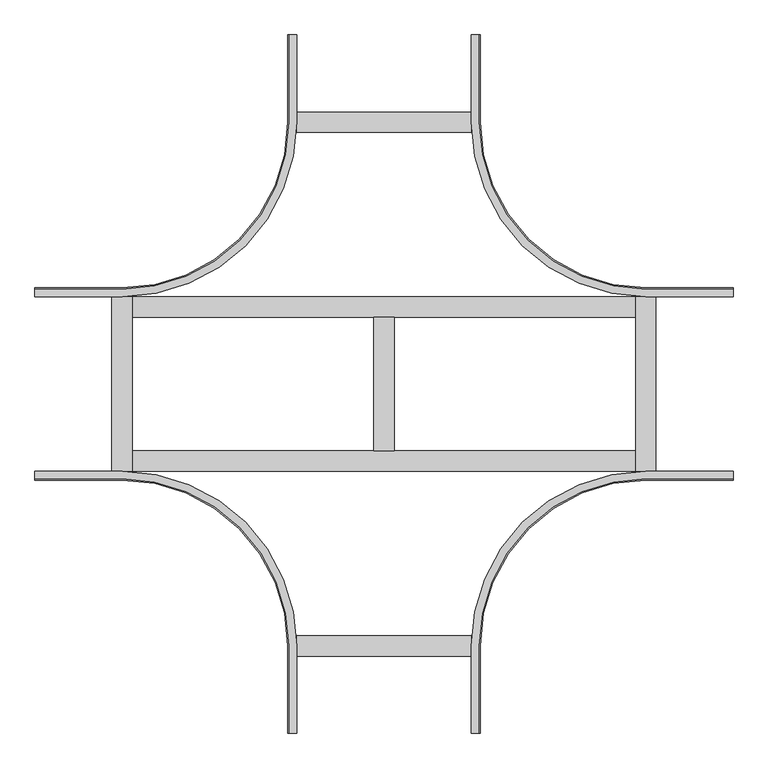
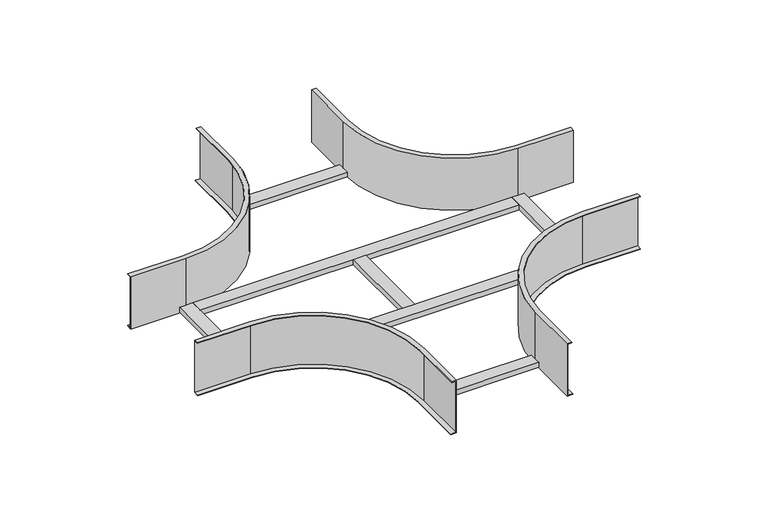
"""IFC4 building model written with IfcOpenShell, lengths in millimetres: cable carrier fitting geometry, CRBSL-CRBSLR_Horizontal Cross-Over-Basortrav : Basortrav CRBSL-300 GC."""

from ifc_helpers import new_model, si_unit, frame, origin, place, context, project, spatial, polyline, circle_curve, outline, extrude, source, transform, mapped, element, save
from ifc_brep_helpers import plane_surface, cylinder_surface, revolved_surface, advanced_brep


def cable_carrier_fitting_2f5dceb8(model_context):
    return source(origin(), model_context, "Body", "SolidModel", [
        advanced_brep(
        [(600.0, 163.0, 75.0), (600.0, 150.0, 75.0), (600.0, 150.0, -75.0), (600.0, 165.1346187, -75.0), (600.0, 165.1346187, -73.5), (600.0, 151.5, -73.5), (600.0, 151.5, 73.5), (600.0, 163.0, 73.5), (450.0, 163.0, 75.0), (163.0, 450.0, 75.0), (163.0, 600.0, 75.0), (150.0, 600.0, 75.0), (150.0, 450.0, 75.0), (450.0, 150.0, 75.0), (450.0, 150.0, -75.0), (150.0, 450.0, -75.0), (150.0, 600.0, -75.0), (165.1346187, 600.0, -75.0), (165.1346187, 450.0, -75.0), (450.0, 165.1346187, -75.0), (450.0, 151.5, 73.5), (151.5, 450.0, 73.5), (151.5, 600.0, 73.5), (163.0, 600.0, 73.5), (163.0, 450.0, 73.5), (450.0, 163.0, 73.5), (151.5, 600.0, -73.5), (165.1346187, 600.0, -73.5), (450.0, 165.1346187, -73.5), (165.1346187, 450.0, -73.5), (151.5, 450.0, -73.5), (450.0, 151.5, -73.5)],
        [
            (0, 1),
            (1, 2),
            (2, 3),
            (3, 4),
            (4, 5),
            (5, 6),
            (6, 7),
            (7, 0),
            (0, 8),
            (8, 9, circle_curve(frame((450.0, 450.0, 75.0), z_axis=(0.0, 0.0, -1.0), x_axis=(0.0, -1.0, 0.0)), 287.0)),
            (9, 10),
            (10, 11),
            (11, 12),
            (12, 13, circle_curve(frame((450.0, 450.0, 75.0), z_axis=(0.0, 0.0, 1.0), x_axis=(0.0, -1.0, 0.0)), 300.0)),
            (13, 1),
            (13, 14),
            (14, 2),
            (14, 15, circle_curve(frame((450.0, 450.0, -75.0), z_axis=(0.0, 0.0, -1.0), x_axis=(0.0, -1.0, 0.0)), 300.0)),
            (15, 16),
            (16, 17),
            (17, 18),
            (18, 19, circle_curve(frame((450.0, 450.0, -75.0), z_axis=(0.0, 0.0, 1.0), x_axis=(0.0, -1.0, 0.0)), 284.8653813)),
            (19, 3),
            (6, 20),
            (20, 21, circle_curve(frame((450.0, 450.0, 73.5), z_axis=(0.0, 0.0, -1.0), x_axis=(0.0, -1.0, 0.0)), 298.5)),
            (21, 22),
            (22, 23),
            (23, 24),
            (24, 25, circle_curve(frame((450.0, 450.0, 73.5), z_axis=(0.0, 0.0, 1.0), x_axis=(0.0, -1.0, 0.0)), 287.0)),
            (25, 7),
            (25, 8),
            (12, 15),
            (24, 9),
            (10, 23),
            (22, 26),
            (26, 27),
            (27, 17),
            (16, 11),
            (19, 28),
            (28, 4),
            (28, 29, circle_curve(frame((450.0, 450.0, -73.5), z_axis=(0.0, 0.0, -1.0), x_axis=(0.0, -1.0, 0.0)), 284.8653813)),
            (29, 27),
            (26, 30),
            (30, 31, circle_curve(frame((450.0, 450.0, -73.5), z_axis=(0.0, 0.0, 1.0), x_axis=(0.0, -1.0, 0.0)), 298.5)),
            (31, 5),
            (31, 20),
            (18, 29),
            (30, 21),
        ],
        [
            plane_surface(frame((600.0, 150.0, 75.0), z_axis=(1.0, 0.0, 0.0), x_axis=(0.0, 0.0, 1.0))),
            plane_surface(frame((600.0, 163.0, 75.0), z_axis=(0.0, 0.0, 1.0), x_axis=(-1.0, 0.0, 0.0))),
            plane_surface(frame((600.0, 150.0, 75.0), z_axis=(0.0, -1.0, 0.0), x_axis=(-1.0, 0.0, 0.0))),
            plane_surface(frame((600.0, 150.0, -75.0), z_axis=(0.0, 0.0, -1.0), x_axis=(-1.0, 0.0, 0.0))),
            plane_surface(frame((600.0, 151.5, 73.5), z_axis=(0.0, 0.0, -1.0), x_axis=(-1.0, 0.0, 0.0))),
            plane_surface(frame((600.0, 163.0, 73.5), z_axis=(0.0, 1.0, 0.0), x_axis=(-1.0, 0.0, 0.0))),
            cylinder_surface(frame((450.0, 450.0, 75.0), z_axis=(0.0, 0.0, -1.0), x_axis=(0.0, -1.0, 0.0)), 300.0),
            revolved_surface(polyline([(450.0, 163.0, 73.5), (450.0, 163.0, 75.0)]), (450.0, 450.0, 75.0), (0.0, 0.0, -1.0)),
            plane_surface(frame((150.0, 600.0, 75.0), z_axis=(0.0, 1.0, 0.0), x_axis=(0.0, 0.0, 1.0))),
            plane_surface(frame((150.0, 450.0, 75.0), z_axis=(-1.0, 0.0, 0.0), x_axis=(0.0, 1.0, 0.0))),
            plane_surface(frame((163.0, 450.0, 73.5), z_axis=(1.0, 0.0, 0.0), x_axis=(0.0, 1.0, 0.0))),
            plane_surface(frame((600.0, 165.1346187, -75.0), z_axis=(0.0, 1.0, 0.0), x_axis=(-1.0, 0.0, 0.0))),
            plane_surface(frame((600.0, 165.1346187, -73.5), z_axis=(0.0, 0.0, 1.0), x_axis=(-1.0, 0.0, 0.0))),
            plane_surface(frame((600.0, 151.5, -73.5), z_axis=(0.0, 1.0, 0.0), x_axis=(-1.0, 0.0, 0.0))),
            revolved_surface(polyline([(450.0, 165.13461869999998, -75.0), (450.0, 165.13461869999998, -73.5)]), (450.0, 450.0, 75.0), (0.0, 0.0, -1.0)),
            revolved_surface(polyline([(450.0, 151.5, -73.5), (450.0, 151.5, 73.5)]), (450.0, 450.0, 75.0), (0.0, 0.0, -1.0)),
            plane_surface(frame((165.1346187, 450.0, -75.0), z_axis=(1.0, 0.0, 0.0), x_axis=(0.0, 1.0, 0.0))),
            plane_surface(frame((151.5, 450.0, -73.5), z_axis=(1.0, 0.0, 0.0), x_axis=(0.0, 1.0, 0.0))),
        ],
        [
            (0, [[1, 2, 3, 4, 5, 6, 7, 8]]),
            (1, [[-1, 9, 10, 11, 12, 13, 14, 15]]),
            (2, [[-2, -15, 16, 17]]),
            (3, [[-3, -17, 18, 19, 20, 21, 22, 23]]),
            (4, [[-7, 24, 25, 26, 27, 28, 29, 30]]),
            (5, [[-8, -30, 31, -9]]),
            (6, [[-18, -16, -14, 32]]),
            (7, [[-10, -31, -29, 33]]),
            (8, [[34, -27, 35, 36, 37, -20, 38, -12]]),
            (9, [[-32, -13, -38, -19]]),
            (10, [[-33, -28, -34, -11]]),
            (11, [[-4, -23, 39, 40]]),
            (12, [[-5, -40, 41, 42, -36, 43, 44, 45]]),
            (13, [[-6, -45, 46, -24]]),
            (14, [[-41, -39, -22, 47]]),
            (15, [[-25, -46, -44, 48]]),
            (16, [[-47, -21, -37, -42]]),
            (17, [[-48, -43, -35, -26]]),
        ],
    ),
        advanced_brep(
        [(-163.0, 600.0, 75.0), (-150.0, 600.0, 75.0), (-150.0, 600.0, -75.0), (-165.1346187, 600.0, -75.0), (-165.1346187, 600.0, -73.5), (-151.5, 600.0, -73.5), (-151.5, 600.0, 73.5), (-163.0, 600.0, 73.5), (-163.0, 450.0, 75.0), (-450.0, 163.0, 75.0), (-600.0, 163.0, 75.0), (-600.0, 150.0, 75.0), (-450.0, 150.0, 75.0), (-150.0, 450.0, 75.0), (-150.0, 450.0, -75.0), (-450.0, 150.0, -75.0), (-600.0, 150.0, -75.0), (-600.0, 165.1346187, -75.0), (-450.0, 165.1346187, -75.0), (-165.1346187, 450.0, -75.0), (-151.5, 450.0, 73.5), (-450.0, 151.5, 73.5), (-600.0, 151.5, 73.5), (-600.0, 163.0, 73.5), (-450.0, 163.0, 73.5), (-163.0, 450.0, 73.5), (-600.0, 151.5, -73.5), (-600.0, 165.1346187, -73.5), (-165.1346187, 450.0, -73.5), (-450.0, 165.1346187, -73.5), (-450.0, 151.5, -73.5), (-151.5, 450.0, -73.5)],
        [
            (0, 1),
            (1, 2),
            (2, 3),
            (3, 4),
            (4, 5),
            (5, 6),
            (6, 7),
            (7, 0),
            (0, 8),
            (8, 9, circle_curve(frame((-450.0, 450.0, 75.0), z_axis=(0.0, 0.0, -1.0), x_axis=(1.0, 0.0, 0.0)), 287.0)),
            (9, 10),
            (10, 11),
            (11, 12),
            (12, 13, circle_curve(frame((-450.0, 450.0, 75.0), z_axis=(0.0, 0.0, 1.0), x_axis=(1.0, 0.0, 0.0)), 300.0)),
            (13, 1),
            (13, 14),
            (14, 2),
            (14, 15, circle_curve(frame((-450.0, 450.0, -75.0), z_axis=(0.0, 0.0, -1.0), x_axis=(1.0, 0.0, 0.0)), 300.0)),
            (15, 16),
            (16, 17),
            (17, 18),
            (18, 19, circle_curve(frame((-450.0, 450.0, -75.0), z_axis=(0.0, 0.0, 1.0), x_axis=(1.0, 0.0, 0.0)), 284.8653813)),
            (19, 3),
            (6, 20),
            (20, 21, circle_curve(frame((-450.0, 450.0, 73.5), z_axis=(0.0, 0.0, -1.0), x_axis=(1.0, 0.0, 0.0)), 298.5)),
            (21, 22),
            (22, 23),
            (23, 24),
            (24, 25, circle_curve(frame((-450.0, 450.0, 73.5), z_axis=(0.0, 0.0, 1.0), x_axis=(1.0, 0.0, 0.0)), 287.0)),
            (25, 7),
            (25, 8),
            (12, 15),
            (24, 9),
            (10, 23),
            (22, 26),
            (26, 27),
            (27, 17),
            (16, 11),
            (19, 28),
            (28, 4),
            (28, 29, circle_curve(frame((-450.0, 450.0, -73.5), z_axis=(0.0, 0.0, -1.0), x_axis=(1.0, 0.0, 0.0)), 284.8653813)),
            (29, 27),
            (26, 30),
            (30, 31, circle_curve(frame((-450.0, 450.0, -73.5), z_axis=(0.0, 0.0, 1.0), x_axis=(1.0, 0.0, 0.0)), 298.5)),
            (31, 5),
            (31, 20),
            (18, 29),
            (30, 21),
        ],
        [
            plane_surface(frame((-150.0, 600.0, 75.0), z_axis=(0.0, 1.0, 0.0), x_axis=(0.0, 0.0, 1.0))),
            plane_surface(frame((-163.0, 600.0, 75.0), z_axis=(0.0, 0.0, 1.0), x_axis=(0.0, -1.0, 0.0))),
            plane_surface(frame((-150.0, 600.0, 75.0), z_axis=(1.0, 0.0, 0.0), x_axis=(0.0, -1.0, 0.0))),
            plane_surface(frame((-150.0, 600.0, -75.0), z_axis=(0.0, 0.0, -1.0), x_axis=(0.0, -1.0, 0.0))),
            plane_surface(frame((-151.5, 600.0, 73.5), z_axis=(0.0, 0.0, -1.0), x_axis=(0.0, -1.0, 0.0))),
            plane_surface(frame((-163.0, 600.0, 73.5), z_axis=(-1.0, 0.0, 0.0), x_axis=(0.0, -1.0, 0.0))),
            cylinder_surface(frame((-450.0, 450.0, 75.0), z_axis=(0.0, 0.0, -1.0), x_axis=(1.0, 0.0, 0.0)), 300.0),
            revolved_surface(polyline([(-163.0, 450.0, 73.5), (-163.0, 450.0, 75.0)]), (-450.0, 450.0, 75.0), (0.0, 0.0, -1.0)),
            plane_surface(frame((-600.0, 150.0, 75.0), z_axis=(-1.0, 0.0, 0.0), x_axis=(0.0, 0.0, 1.0))),
            plane_surface(frame((-450.0, 150.0, 75.0), z_axis=(0.0, -1.0, 0.0), x_axis=(-1.0, 0.0, 0.0))),
            plane_surface(frame((-450.0, 163.0, 73.5), z_axis=(0.0, 1.0, 0.0), x_axis=(-1.0, 0.0, 0.0))),
            plane_surface(frame((-165.1346187, 600.0, -75.0), z_axis=(-1.0, 0.0, 0.0), x_axis=(0.0, -1.0, 0.0))),
            plane_surface(frame((-165.1346187, 600.0, -73.5), z_axis=(0.0, 0.0, 1.0), x_axis=(0.0, -1.0, 0.0))),
            plane_surface(frame((-151.5, 600.0, -73.5), z_axis=(-1.0, 0.0, 0.0), x_axis=(0.0, -1.0, 0.0))),
            revolved_surface(polyline([(-165.13461869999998, 450.0, -75.0), (-165.13461869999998, 450.0, -73.5)]), (-450.0, 450.0, 75.0), (0.0, 0.0, -1.0)),
            revolved_surface(polyline([(-151.5, 450.0, -73.5), (-151.5, 450.0, 73.5)]), (-450.0, 450.0, 75.0), (0.0, 0.0, -1.0)),
            plane_surface(frame((-450.0, 165.1346187, -75.0), z_axis=(0.0, 1.0, 0.0), x_axis=(-1.0, 0.0, 0.0))),
            plane_surface(frame((-450.0, 151.5, -73.5), z_axis=(0.0, 1.0, 0.0), x_axis=(-1.0, 0.0, 0.0))),
        ],
        [
            (0, [[1, 2, 3, 4, 5, 6, 7, 8]]),
            (1, [[-1, 9, 10, 11, 12, 13, 14, 15]]),
            (2, [[-2, -15, 16, 17]]),
            (3, [[-3, -17, 18, 19, 20, 21, 22, 23]]),
            (4, [[-7, 24, 25, 26, 27, 28, 29, 30]]),
            (5, [[-8, -30, 31, -9]]),
            (6, [[-18, -16, -14, 32]]),
            (7, [[-10, -31, -29, 33]]),
            (8, [[34, -27, 35, 36, 37, -20, 38, -12]]),
            (9, [[-32, -13, -38, -19]]),
            (10, [[-33, -28, -34, -11]]),
            (11, [[-4, -23, 39, 40]]),
            (12, [[-5, -40, 41, 42, -36, 43, 44, 45]]),
            (13, [[-6, -45, 46, -24]]),
            (14, [[-41, -39, -22, 47]]),
            (15, [[-25, -46, -44, 48]]),
            (16, [[-47, -21, -37, -42]]),
            (17, [[-48, -43, -35, -26]]),
        ],
    ),
        advanced_brep(
        [(163.0, -600.0, 75.0), (150.0, -600.0, 75.0), (150.0, -600.0, -75.0), (165.1346187, -600.0, -75.0), (165.1346187, -600.0, -73.5), (151.5, -600.0, -73.5), (151.5, -600.0, 73.5), (163.0, -600.0, 73.5), (163.0, -450.0, 75.0), (450.0, -163.0, 75.0), (600.0, -163.0, 75.0), (600.0, -150.0, 75.0), (450.0, -150.0, 75.0), (150.0, -450.0, 75.0), (150.0, -450.0, -75.0), (450.0, -150.0, -75.0), (600.0, -150.0, -75.0), (600.0, -165.1346187, -75.0), (450.0, -165.1346187, -75.0), (165.1346187, -450.0, -75.0), (151.5, -450.0, 73.5), (450.0, -151.5, 73.5), (600.0, -151.5, 73.5), (600.0, -163.0, 73.5), (450.0, -163.0, 73.5), (163.0, -450.0, 73.5), (600.0, -151.5, -73.5), (600.0, -165.1346187, -73.5), (165.1346187, -450.0, -73.5), (450.0, -165.1346187, -73.5), (450.0, -151.5, -73.5), (151.5, -450.0, -73.5)],
        [
            (0, 1),
            (1, 2),
            (2, 3),
            (3, 4),
            (4, 5),
            (5, 6),
            (6, 7),
            (7, 0),
            (0, 8),
            (8, 9, circle_curve(frame((450.0, -450.0, 75.0), z_axis=(0.0, 0.0, -1.0), x_axis=(-1.0, 0.0, 0.0)), 287.0)),
            (9, 10),
            (10, 11),
            (11, 12),
            (12, 13, circle_curve(frame((450.0, -450.0, 75.0), z_axis=(0.0, 0.0, 1.0), x_axis=(-1.0, 0.0, 0.0)), 300.0)),
            (13, 1),
            (13, 14),
            (14, 2),
            (14, 15, circle_curve(frame((450.0, -450.0, -75.0), z_axis=(0.0, 0.0, -1.0), x_axis=(-1.0, 0.0, 0.0)), 300.0)),
            (15, 16),
            (16, 17),
            (17, 18),
            (18, 19, circle_curve(frame((450.0, -450.0, -75.0), z_axis=(0.0, 0.0, 1.0), x_axis=(-1.0, 0.0, 0.0)), 284.8653813)),
            (19, 3),
            (6, 20),
            (20, 21, circle_curve(frame((450.0, -450.0, 73.5), z_axis=(0.0, 0.0, -1.0), x_axis=(-1.0, 0.0, 0.0)), 298.5)),
            (21, 22),
            (22, 23),
            (23, 24),
            (24, 25, circle_curve(frame((450.0, -450.0, 73.5), z_axis=(0.0, 0.0, 1.0), x_axis=(-1.0, 0.0, 0.0)), 287.0)),
            (25, 7),
            (25, 8),
            (12, 15),
            (24, 9),
            (10, 23),
            (22, 26),
            (26, 27),
            (27, 17),
            (16, 11),
            (19, 28),
            (28, 4),
            (28, 29, circle_curve(frame((450.0, -450.0, -73.5), z_axis=(0.0, 0.0, -1.0), x_axis=(-1.0, 0.0, 0.0)), 284.8653813)),
            (29, 27),
            (26, 30),
            (30, 31, circle_curve(frame((450.0, -450.0, -73.5), z_axis=(0.0, 0.0, 1.0), x_axis=(-1.0, 0.0, 0.0)), 298.5)),
            (31, 5),
            (31, 20),
            (18, 29),
            (30, 21),
        ],
        [
            plane_surface(frame((150.0, -600.0, 75.0), z_axis=(0.0, -1.0, 0.0), x_axis=(0.0, 0.0, 1.0))),
            plane_surface(frame((163.0, -600.0, 75.0), z_axis=(0.0, 0.0, 1.0), x_axis=(0.0, 1.0, 0.0))),
            plane_surface(frame((150.0, -600.0, 75.0), z_axis=(-1.0, 0.0, 0.0), x_axis=(0.0, 1.0, 0.0))),
            plane_surface(frame((150.0, -600.0, -75.0), z_axis=(0.0, 0.0, -1.0), x_axis=(0.0, 1.0, 0.0))),
            plane_surface(frame((151.5, -600.0, 73.5), z_axis=(0.0, 0.0, -1.0), x_axis=(0.0, 1.0, 0.0))),
            plane_surface(frame((163.0, -600.0, 73.5), z_axis=(1.0, 0.0, 0.0), x_axis=(0.0, 1.0, 0.0))),
            cylinder_surface(frame((450.0, -450.0, 75.0), z_axis=(0.0, 0.0, -1.0), x_axis=(-1.0, 0.0, 0.0)), 300.0),
            revolved_surface(polyline([(163.0, -450.0, 73.5), (163.0, -450.0, 75.0)]), (450.0, -450.0, 75.0), (0.0, 0.0, -1.0)),
            plane_surface(frame((600.0, -150.0, 75.0), z_axis=(1.0, 0.0, 0.0), x_axis=(0.0, 0.0, 1.0))),
            plane_surface(frame((450.0, -150.0, 75.0), z_axis=(0.0, 1.0, 0.0), x_axis=(1.0, 0.0, 0.0))),
            plane_surface(frame((450.0, -163.0, 73.5), z_axis=(0.0, -1.0, 0.0), x_axis=(1.0, 0.0, 0.0))),
            plane_surface(frame((165.1346187, -600.0, -75.0), z_axis=(1.0, 0.0, 0.0), x_axis=(0.0, 1.0, 0.0))),
            plane_surface(frame((165.1346187, -600.0, -73.5), z_axis=(0.0, 0.0, 1.0), x_axis=(0.0, 1.0, 0.0))),
            plane_surface(frame((151.5, -600.0, -73.5), z_axis=(1.0, 0.0, 0.0), x_axis=(0.0, 1.0, 0.0))),
            revolved_surface(polyline([(165.13461869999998, -450.0, -75.0), (165.13461869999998, -450.0, -73.5)]), (450.0, -450.0, 75.0), (0.0, 0.0, -1.0)),
            revolved_surface(polyline([(151.5, -450.0, -73.5), (151.5, -450.0, 73.5)]), (450.0, -450.0, 75.0), (0.0, 0.0, -1.0)),
            plane_surface(frame((450.0, -165.1346187, -75.0), z_axis=(0.0, -1.0, 0.0), x_axis=(1.0, 0.0, 0.0))),
            plane_surface(frame((450.0, -151.5, -73.5), z_axis=(0.0, -1.0, 0.0), x_axis=(1.0, 0.0, 0.0))),
        ],
        [
            (0, [[1, 2, 3, 4, 5, 6, 7, 8]]),
            (1, [[-1, 9, 10, 11, 12, 13, 14, 15]]),
            (2, [[-2, -15, 16, 17]]),
            (3, [[-3, -17, 18, 19, 20, 21, 22, 23]]),
            (4, [[-7, 24, 25, 26, 27, 28, 29, 30]]),
            (5, [[-8, -30, 31, -9]]),
            (6, [[-18, -16, -14, 32]]),
            (7, [[-10, -31, -29, 33]]),
            (8, [[34, -27, 35, 36, 37, -20, 38, -12]]),
            (9, [[-32, -13, -38, -19]]),
            (10, [[-33, -28, -34, -11]]),
            (11, [[-4, -23, 39, 40]]),
            (12, [[-5, -40, 41, 42, -36, 43, 44, 45]]),
            (13, [[-6, -45, 46, -24]]),
            (14, [[-41, -39, -22, 47]]),
            (15, [[-25, -46, -44, 48]]),
            (16, [[-47, -21, -37, -42]]),
            (17, [[-48, -43, -35, -26]]),
        ],
    ),
        advanced_brep(
        [(-600.0, -163.0, 75.0), (-600.0, -150.0, 75.0), (-600.0, -150.0, -75.0), (-600.0, -165.1346187, -75.0), (-600.0, -165.1346187, -73.5), (-600.0, -151.5, -73.5), (-600.0, -151.5, 73.5), (-600.0, -163.0, 73.5), (-450.0, -163.0, 75.0), (-163.0, -450.0, 75.0), (-163.0, -600.0, 75.0), (-150.0, -600.0, 75.0), (-150.0, -450.0, 75.0), (-450.0, -150.0, 75.0), (-450.0, -150.0, -75.0), (-150.0, -450.0, -75.0), (-150.0, -600.0, -75.0), (-165.1346187, -600.0, -75.0), (-165.1346187, -450.0, -75.0), (-450.0, -165.1346187, -75.0), (-450.0, -151.5, 73.5), (-151.5, -450.0, 73.5), (-151.5, -600.0, 73.5), (-163.0, -600.0, 73.5), (-163.0, -450.0, 73.5), (-450.0, -163.0, 73.5), (-151.5, -600.0, -73.5), (-165.1346187, -600.0, -73.5), (-450.0, -165.1346187, -73.5), (-165.1346187, -450.0, -73.5), (-151.5, -450.0, -73.5), (-450.0, -151.5, -73.5)],
        [
            (0, 1),
            (1, 2),
            (2, 3),
            (3, 4),
            (4, 5),
            (5, 6),
            (6, 7),
            (7, 0),
            (0, 8),
            (8, 9, circle_curve(frame((-450.0, -450.0, 75.0), z_axis=(0.0, 0.0, -1.0), x_axis=(0.0, 1.0, 0.0)), 287.0)),
            (9, 10),
            (10, 11),
            (11, 12),
            (12, 13, circle_curve(frame((-450.0, -450.0, 75.0), z_axis=(0.0, 0.0, 1.0), x_axis=(0.0, 1.0, 0.0)), 300.0)),
            (13, 1),
            (13, 14),
            (14, 2),
            (14, 15, circle_curve(frame((-450.0, -450.0, -75.0), z_axis=(0.0, 0.0, -1.0), x_axis=(0.0, 1.0, 0.0)), 300.0)),
            (15, 16),
            (16, 17),
            (17, 18),
            (18, 19, circle_curve(frame((-450.0, -450.0, -75.0), z_axis=(0.0, 0.0, 1.0), x_axis=(0.0, 1.0, 0.0)), 284.8653813)),
            (19, 3),
            (6, 20),
            (20, 21, circle_curve(frame((-450.0, -450.0, 73.5), z_axis=(0.0, 0.0, -1.0), x_axis=(0.0, 1.0, 0.0)), 298.5)),
            (21, 22),
            (22, 23),
            (23, 24),
            (24, 25, circle_curve(frame((-450.0, -450.0, 73.5), z_axis=(0.0, 0.0, 1.0), x_axis=(0.0, 1.0, 0.0)), 287.0)),
            (25, 7),
            (25, 8),
            (12, 15),
            (24, 9),
            (10, 23),
            (22, 26),
            (26, 27),
            (27, 17),
            (16, 11),
            (19, 28),
            (28, 4),
            (28, 29, circle_curve(frame((-450.0, -450.0, -73.5), z_axis=(0.0, 0.0, -1.0), x_axis=(0.0, 1.0, 0.0)), 284.8653813)),
            (29, 27),
            (26, 30),
            (30, 31, circle_curve(frame((-450.0, -450.0, -73.5), z_axis=(0.0, 0.0, 1.0), x_axis=(0.0, 1.0, 0.0)), 298.5)),
            (31, 5),
            (31, 20),
            (18, 29),
            (30, 21),
        ],
        [
            plane_surface(frame((-600.0, -150.0, 75.0), z_axis=(-1.0, 0.0, 0.0), x_axis=(0.0, 0.0, 1.0))),
            plane_surface(frame((-600.0, -163.0, 75.0), z_axis=(0.0, 0.0, 1.0), x_axis=(1.0, 0.0, 0.0))),
            plane_surface(frame((-600.0, -150.0, 75.0), z_axis=(0.0, 1.0, 0.0), x_axis=(1.0, 0.0, 0.0))),
            plane_surface(frame((-600.0, -150.0, -75.0), z_axis=(0.0, 0.0, -1.0), x_axis=(1.0, 0.0, 0.0))),
            plane_surface(frame((-600.0, -151.5, 73.5), z_axis=(0.0, 0.0, -1.0), x_axis=(1.0, 0.0, 0.0))),
            plane_surface(frame((-600.0, -163.0, 73.5), z_axis=(0.0, -1.0, 0.0), x_axis=(1.0, 0.0, 0.0))),
            cylinder_surface(frame((-450.0, -450.0, 75.0), z_axis=(0.0, 0.0, -1.0), x_axis=(0.0, 1.0, 0.0)), 300.0),
            revolved_surface(polyline([(-450.0, -163.0, 73.5), (-450.0, -163.0, 75.0)]), (-450.0, -450.0, 75.0), (0.0, 0.0, -1.0)),
            plane_surface(frame((-150.0, -600.0, 75.0), z_axis=(0.0, -1.0, 0.0), x_axis=(0.0, 0.0, 1.0))),
            plane_surface(frame((-150.0, -450.0, 75.0), z_axis=(1.0, 0.0, 0.0), x_axis=(0.0, -1.0, 0.0))),
            plane_surface(frame((-163.0, -450.0, 73.5), z_axis=(-1.0, 0.0, 0.0), x_axis=(0.0, -1.0, 0.0))),
            plane_surface(frame((-600.0, -165.1346187, -75.0), z_axis=(0.0, -1.0, 0.0), x_axis=(1.0, 0.0, 0.0))),
            plane_surface(frame((-600.0, -165.1346187, -73.5), z_axis=(0.0, 0.0, 1.0), x_axis=(1.0, 0.0, 0.0))),
            plane_surface(frame((-600.0, -151.5, -73.5), z_axis=(0.0, -1.0, 0.0), x_axis=(1.0, 0.0, 0.0))),
            revolved_surface(polyline([(-450.0, -165.13461869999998, -75.0), (-450.0, -165.13461869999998, -73.5)]), (-450.0, -450.0, 75.0), (0.0, 0.0, -1.0)),
            revolved_surface(polyline([(-450.0, -151.5, -73.5), (-450.0, -151.5, 73.5)]), (-450.0, -450.0, 75.0), (0.0, 0.0, -1.0)),
            plane_surface(frame((-165.1346187, -450.0, -75.0), z_axis=(-1.0, 0.0, 0.0), x_axis=(0.0, -1.0, 0.0))),
            plane_surface(frame((-151.5, -450.0, -73.5), z_axis=(-1.0, 0.0, 0.0), x_axis=(0.0, -1.0, 0.0))),
        ],
        [
            (0, [[1, 2, 3, 4, 5, 6, 7, 8]]),
            (1, [[-1, 9, 10, 11, 12, 13, 14, 15]]),
            (2, [[-2, -15, 16, 17]]),
            (3, [[-3, -17, 18, 19, 20, 21, 22, 23]]),
            (4, [[-7, 24, 25, 26, 27, 28, 29, 30]]),
            (5, [[-8, -30, 31, -9]]),
            (6, [[-18, -16, -14, 32]]),
            (7, [[-10, -31, -29, 33]]),
            (8, [[34, -27, 35, 36, 37, -20, 38, -12]]),
            (9, [[-32, -13, -38, -19]]),
            (10, [[-33, -28, -34, -11]]),
            (11, [[-4, -23, 39, 40]]),
            (12, [[-5, -40, 41, 42, -36, 43, 44, 45]]),
            (13, [[-6, -45, 46, -24]]),
            (14, [[-41, -39, -22, 47]]),
            (15, [[-25, -46, -44, 48]]),
            (16, [[-47, -21, -37, -42]]),
            (17, [[-48, -43, -35, -26]]),
        ],
    ),
        extrude(outline(polyline([(150.0, -467.5), (-150.0, -467.5), (-150.0, -432.5), (150.0, -432.5), (150.0, -467.5)])), frame((0.0, 0.0, -73.0), z_axis=(0.0, 0.0, 1.0), x_axis=(1.0, 0.0, 0.0)), (0.0, 0.0, 1.0), 14.0),
        extrude(outline(polyline([(150.0, 467.5), (150.0, 432.5), (-150.0, 432.5), (-150.0, 467.5), (150.0, 467.5)])), frame((0.0, 0.0, -73.0), z_axis=(0.0, 0.0, 1.0), x_axis=(1.0, 0.0, 0.0)), (0.0, 0.0, 1.0), 14.0),
        extrude(outline(polyline([(467.5, 150.0), (467.5, -150.0), (432.5, -150.0), (432.5, 150.0), (467.5, 150.0)])), frame((0.0, 0.0, -73.0), z_axis=(0.0, 0.0, 1.0), x_axis=(1.0, 0.0, 0.0)), (0.0, 0.0, 1.0), 14.0),
        extrude(outline(polyline([(17.5, 115.0), (17.5, -115.0), (-17.5, -115.0), (-17.5, 115.0), (17.5, 115.0)])), frame((0.0, 0.0, -73.0), z_axis=(0.0, 0.0, 1.0), x_axis=(1.0, 0.0, 0.0)), (0.0, 0.0, 1.0), 14.0),
        extrude(outline(polyline([(-432.5, 150.0), (-432.5, -150.0), (-467.5, -150.0), (-467.5, 150.0), (-432.5, 150.0)])), frame((0.0, 0.0, -73.0), z_axis=(0.0, 0.0, 1.0), x_axis=(1.0, 0.0, 0.0)), (0.0, 0.0, 1.0), 14.0),
        extrude(outline(polyline([(432.5, -115.0), (432.5, -150.0), (-432.5, -150.0), (-432.5, -115.0), (432.5, -115.0)])), frame((0.0, 0.0, -73.0), z_axis=(0.0, 0.0, 1.0), x_axis=(1.0, 0.0, 0.0)), (0.0, 0.0, 1.0), 14.0),
        extrude(outline(polyline([(432.5, 150.0), (432.5, 115.0), (-432.5, 115.0), (-432.5, 150.0), (432.5, 150.0)])), frame((0.0, 0.0, -73.0), z_axis=(0.0, 0.0, 1.0), x_axis=(1.0, 0.0, 0.0)), (0.0, 0.0, 1.0), 14.0),
    ])


if __name__ == "__main__":
    model = new_model("IFC4")
    model_context = context("Model", 3, world=origin())
    ifc_project = project(units=[si_unit("LENGTHUNIT", "METRE", prefix="MILLI")], contexts=[model_context])
    site = spatial("IfcSite", under=ifc_project)
    building = spatial("IfcBuilding", under=site)
    placement = place(None, origin())
    cable_carrier_fitting_shape = cable_carrier_fitting_2f5dceb8(model_context)
    element("IfcCableCarrierFitting", 1, ObjectType="CRBSL-CRBSLR_Horizontal Cross-Over-Basortrav : Basortrav CRBSL-300 GC", at=placement, inside=building, context=model_context, shape_type="MappedRepresentation", body=[
        mapped(cable_carrier_fitting_shape, transform((0.0, 0.0, 0.0), x_axis=(1.0, 0.0, 0.0), y_axis=(0.0, 1.0, 0.0), z_axis=(0.0, 0.0, 1.0))),
    ])
    save(model, "model.ifc")
